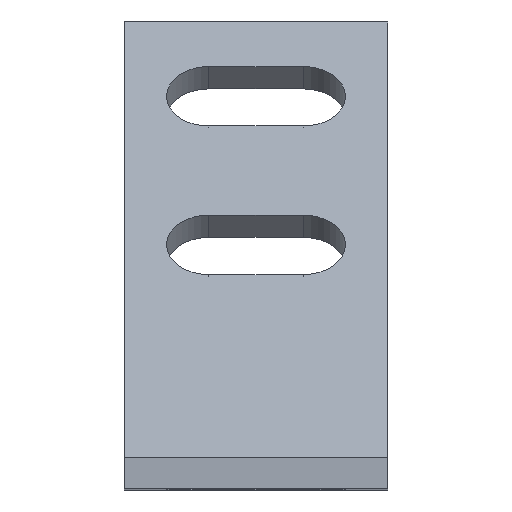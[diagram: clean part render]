
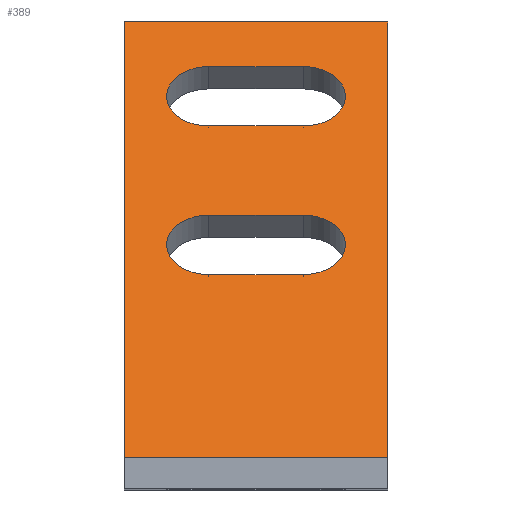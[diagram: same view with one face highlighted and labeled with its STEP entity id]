
A CAD part, top view. The second image highlights one B-rep face of the part: STEP entity #389.
In plain terms, the highlighted planar face has unit normal (0, 0.707, 0.707).
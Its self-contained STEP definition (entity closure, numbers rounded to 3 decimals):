
#1 = ORIENTED_EDGE ( 'NONE', *, *, #488, .F. ) ;
#12 = CARTESIAN_POINT ( 'NONE',  ( -12.5, 3., 1.243 ) ) ;
#13 = EDGE_CURVE ( 'NONE', #305, #693, #888, .T. ) ;
#17 = CARTESIAN_POINT ( 'NONE',  ( 4.5, 23.335, -19.092 ) ) ;
#25 = AXIS2_PLACEMENT_3D ( 'NONE', #814, #189, #884 ) ;
#35 = FACE_BOUND ( 'NONE', #367, .T. ) ;
#38 = DIRECTION ( 'NONE',  ( -1., 0., 0. ) ) ;
#54 = VECTOR ( 'NONE', #808, 1000. ) ;
#59 = EDGE_CURVE ( 'NONE', #356, #305, #880, .T. ) ;
#66 = EDGE_CURVE ( 'NONE', #211, #809, #471, .T. ) ;
#77 = EDGE_CURVE ( 'NONE', #323, #211, #171, .T. ) ;
#95 = CARTESIAN_POINT ( 'NONE',  ( 12.5, 3., 1.243 ) ) ;
#98 = LINE ( 'NONE', #108, #761 ) ;
#101 = PLANE ( 'NONE',  #429 ) ;
#106 = CARTESIAN_POINT ( 'NONE',  ( 12.5, 3., 1.243 ) ) ;
#108 = CARTESIAN_POINT ( 'NONE',  ( -4.5, 34.648, -30.406 ) ) ;
#131 = CARTESIAN_POINT ( 'NONE',  ( 12.5, 3., 1.243 ) ) ;
#134 = ORIENTED_EDGE ( 'NONE', *, *, #279, .T. ) ;
#135 = DIRECTION ( 'NONE',  ( -1., 0., 0. ) ) ;
#146 = ORIENTED_EDGE ( 'NONE', *, *, #446, .T. ) ;
#152 = VECTOR ( 'NONE', #339, 1000. ) ;
#159 = EDGE_CURVE ( 'NONE', #782, #323, #275, .T. ) ;
#164 = CARTESIAN_POINT ( 'NONE',  ( -4.5, 37.477, -33.234 ) ) ;
#171 = CIRCLE ( 'NONE', #25, 4. ) ;
#189 = DIRECTION ( 'NONE',  ( 0., 0.707, 0.707 ) ) ;
#195 = VECTOR ( 'NONE', #438, 1000. ) ;
#211 = VERTEX_POINT ( 'NONE', #285 ) ;
#233 = LINE ( 'NONE', #314, #249 ) ;
#245 = CARTESIAN_POINT ( 'NONE',  ( -4.5, 40.305, -36.062 ) ) ;
#247 = ORIENTED_EDGE ( 'NONE', *, *, #13, .F. ) ;
#248 = CARTESIAN_POINT ( 'NONE',  ( -4.5, 34.648, -30.406 ) ) ;
#249 = VECTOR ( 'NONE', #665, 1000. ) ;
#250 = DIRECTION ( 'NONE',  ( 1., 0., 0. ) ) ;
#273 = CARTESIAN_POINT ( 'NONE',  ( -4.5, 20.506, -16.263 ) ) ;
#275 = LINE ( 'NONE', #624, #616 ) ;
#279 = EDGE_CURVE ( 'NONE', #685, #693, #790, .T. ) ;
#285 = CARTESIAN_POINT ( 'NONE',  ( -4.5, 20.506, -16.263 ) ) ;
#301 = AXIS2_PLACEMENT_3D ( 'NONE', #17, #419, #633 ) ;
#305 = VERTEX_POINT ( 'NONE', #95 ) ;
#314 = CARTESIAN_POINT ( 'NONE',  ( -4.5, 40.305, -36.062 ) ) ;
#323 = VERTEX_POINT ( 'NONE', #798 ) ;
#326 = ORIENTED_EDGE ( 'NONE', *, *, #59, .F. ) ;
#339 = DIRECTION ( 'NONE',  ( 0., -0.707, 0.707 ) ) ;
#345 = VERTEX_POINT ( 'NONE', #667 ) ;
#356 = VERTEX_POINT ( 'NONE', #783 ) ;
#360 = ORIENTED_EDGE ( 'NONE', *, *, #681, .F. ) ;
#367 = EDGE_LOOP ( 'NONE', ( #420, #431, #776, #360 ) ) ;
#372 = DIRECTION ( 'NONE',  ( 0., 0.707, 0.707 ) ) ;
#389 = ADVANCED_FACE ( 'NONE', ( #35, #863, #716 ), #101, .F. ) ;
#392 = CARTESIAN_POINT ( 'NONE',  ( 12.5, 3., 1.243 ) ) ;
#419 = DIRECTION ( 'NONE',  ( 0., 0.707, 0.707 ) ) ;
#420 = ORIENTED_EDGE ( 'NONE', *, *, #66, .F. ) ;
#424 = EDGE_LOOP ( 'NONE', ( #134, #247, #326, #146 ) ) ;
#429 = AXIS2_PLACEMENT_3D ( 'NONE', #106, #594, #854 ) ;
#431 = ORIENTED_EDGE ( 'NONE', *, *, #77, .F. ) ;
#438 = DIRECTION ( 'NONE',  ( 0., -0.707, 0.707 ) ) ;
#445 = CARTESIAN_POINT ( 'NONE',  ( 12.5, 44.548, -40.305 ) ) ;
#446 = EDGE_CURVE ( 'NONE', #356, #685, #700, .T. ) ;
#451 = DIRECTION ( 'NONE',  ( 0., 0.707, -0.707 ) ) ;
#464 = EDGE_LOOP ( 'NONE', ( #894, #746, #1, #717 ) ) ;
#465 = VERTEX_POINT ( 'NONE', #245 ) ;
#471 = LINE ( 'NONE', #273, #724 ) ;
#476 = EDGE_CURVE ( 'NONE', #858, #495, #98, .T. ) ;
#488 = EDGE_CURVE ( 'NONE', #345, #465, #233, .T. ) ;
#491 = EDGE_CURVE ( 'NONE', #465, #858, #876, .T. ) ;
#495 = VERTEX_POINT ( 'NONE', #727 ) ;
#506 = CARTESIAN_POINT ( 'NONE',  ( -12.5, 44.548, -40.305 ) ) ;
#513 = DIRECTION ( 'NONE',  ( 0., 0.707, 0.707 ) ) ;
#520 = EDGE_CURVE ( 'NONE', #495, #345, #632, .T. ) ;
#572 = AXIS2_PLACEMENT_3D ( 'NONE', #164, #513, #451 ) ;
#573 = DIRECTION ( 'NONE',  ( 0., 0.707, -0.707 ) ) ;
#589 = CARTESIAN_POINT ( 'NONE',  ( 4.5, 20.506, -16.263 ) ) ;
#594 = DIRECTION ( 'NONE',  ( 0., -0.707, -0.707 ) ) ;
#607 = DIRECTION ( 'NONE',  ( 1., 0., 0. ) ) ;
#616 = VECTOR ( 'NONE', #135, 1000. ) ;
#624 = CARTESIAN_POINT ( 'NONE',  ( -4.5, 26.163, -21.92 ) ) ;
#632 = CIRCLE ( 'NONE', #806, 4. ) ;
#633 = DIRECTION ( 'NONE',  ( 0., 0.707, -0.707 ) ) ;
#646 = CARTESIAN_POINT ( 'NONE',  ( -12.5, 3., 1.243 ) ) ;
#665 = DIRECTION ( 'NONE',  ( -1., 0., 0. ) ) ;
#667 = CARTESIAN_POINT ( 'NONE',  ( 4.5, 40.305, -36.062 ) ) ;
#681 = EDGE_CURVE ( 'NONE', #809, #782, #738, .T. ) ;
#685 = VERTEX_POINT ( 'NONE', #506 ) ;
#693 = VERTEX_POINT ( 'NONE', #12 ) ;
#700 = LINE ( 'NONE', #445, #726 ) ;
#701 = CARTESIAN_POINT ( 'NONE',  ( 4.5, 26.163, -21.92 ) ) ;
#716 = FACE_OUTER_BOUND ( 'NONE', #424, .T. ) ;
#717 = ORIENTED_EDGE ( 'NONE', *, *, #520, .F. ) ;
#724 = VECTOR ( 'NONE', #607, 1000. ) ;
#726 = VECTOR ( 'NONE', #38, 1000. ) ;
#727 = CARTESIAN_POINT ( 'NONE',  ( 4.5, 34.648, -30.406 ) ) ;
#738 = CIRCLE ( 'NONE', #301, 4. ) ;
#746 = ORIENTED_EDGE ( 'NONE', *, *, #491, .F. ) ;
#761 = VECTOR ( 'NONE', #250, 1000. ) ;
#776 = ORIENTED_EDGE ( 'NONE', *, *, #159, .F. ) ;
#782 = VERTEX_POINT ( 'NONE', #701 ) ;
#783 = CARTESIAN_POINT ( 'NONE',  ( 12.5, 44.548, -40.305 ) ) ;
#790 = LINE ( 'NONE', #646, #195 ) ;
#793 = CARTESIAN_POINT ( 'NONE',  ( 4.5, 37.477, -33.234 ) ) ;
#798 = CARTESIAN_POINT ( 'NONE',  ( -4.5, 26.163, -21.92 ) ) ;
#806 = AXIS2_PLACEMENT_3D ( 'NONE', #793, #372, #573 ) ;
#808 = DIRECTION ( 'NONE',  ( -1., 0., 0. ) ) ;
#809 = VERTEX_POINT ( 'NONE', #589 ) ;
#814 = CARTESIAN_POINT ( 'NONE',  ( -4.5, 23.335, -19.092 ) ) ;
#854 = DIRECTION ( 'NONE',  ( 0., 0.707, -0.707 ) ) ;
#858 = VERTEX_POINT ( 'NONE', #248 ) ;
#863 = FACE_BOUND ( 'NONE', #464, .T. ) ;
#876 = CIRCLE ( 'NONE', #572, 4. ) ;
#880 = LINE ( 'NONE', #131, #152 ) ;
#884 = DIRECTION ( 'NONE',  ( 0., 0.707, -0.707 ) ) ;
#888 = LINE ( 'NONE', #392, #54 ) ;
#894 = ORIENTED_EDGE ( 'NONE', *, *, #476, .F. ) ;
